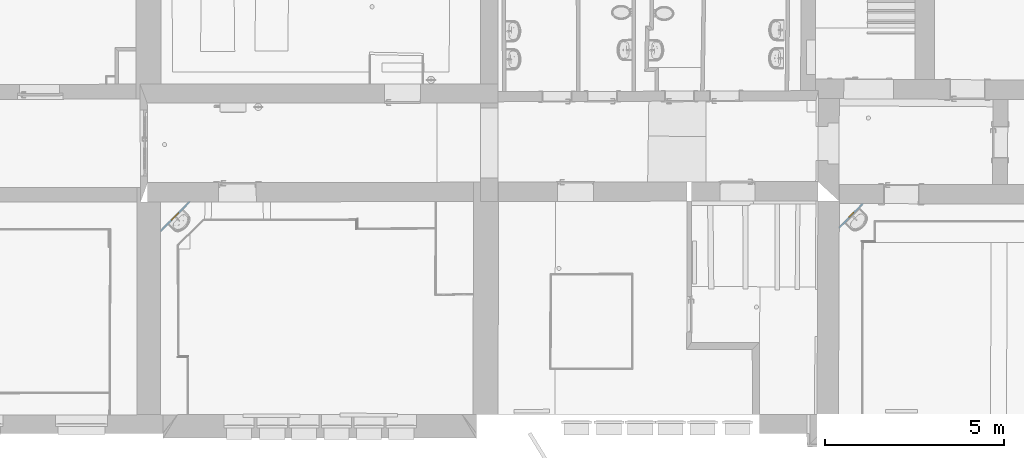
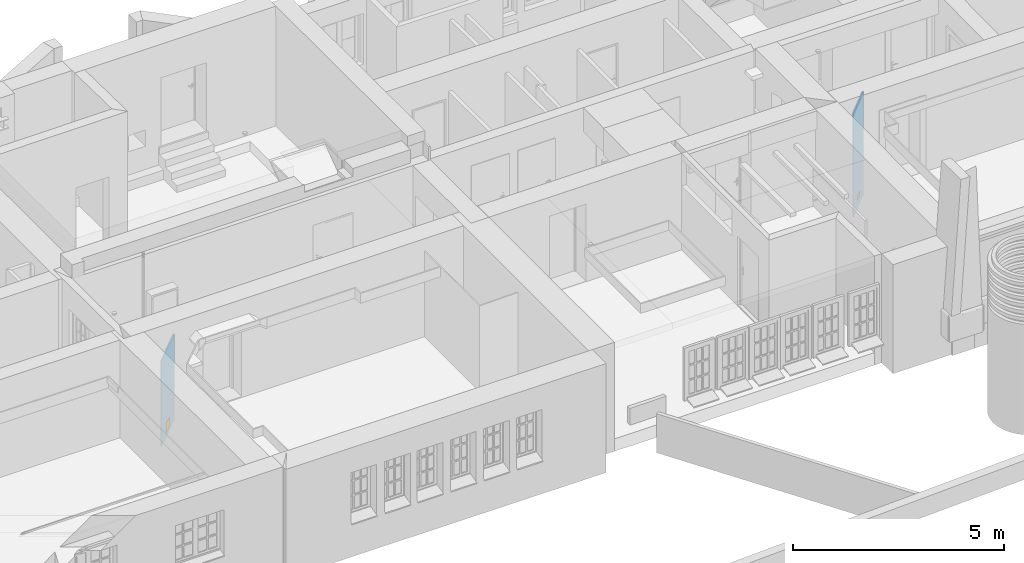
# One storey, part 115 of 196: 2 doors, 2 openings, plus 2 elements that do not belong to this part.
"""IFC2X3 building model written with IfcOpenShell, lengths in metres."""

import ifcopenshell
import ifcopenshell.guid

model = None  # the IFC model being written
_history = None  # IfcOwnerHistory: only IFC2X3 demands one
_inside = {}  # id of a spatial element -> (the spatial element, [elements in it])
_under = {}  # id of a project, library or spatial element -> (it, [spatial elements below it])
_declared = {}  # id of a project -> (the project, [libraries it declares])
_typed = {}  # id of a type object -> (the type object, [elements of that type])
_made_of = {}  # id of a material, layer set ... -> (it, [elements and type objects made of it])


def new_model(schema):
    """Start an empty IFC model of exactly this schema.

    Asked for "IFC4X3", IfcOpenShell would pick the latest addendum, in which some entities
    have other attributes; the version numbers below select the first issue.
    IFC2X3 requires an IfcOwnerHistory on every rooted entity: one is made here for all.
    """
    global model, _history
    if schema == "IFC4X3":
        model = ifcopenshell.file(schema_version=(4, 3, 0, 0))
    else:
        model = ifcopenshell.file(schema=schema)
    _inside.clear()
    _under.clear()
    _declared.clear()
    _typed.clear()
    _made_of.clear()
    _history = None
    if model.schema == "IFC2X3":
        org = make("IfcOrganization", Name="unknown")
        user = make(
            "IfcPersonAndOrganization",
            ThePerson=make("IfcPerson", FamilyName="unknown"),
            TheOrganization=org,
        )
        app = make(
            "IfcApplication",
            ApplicationDeveloper=org,
            Version="unknown",
            ApplicationFullName="unknown",
            ApplicationIdentifier="unknown",
        )
        _history = make(
            "IfcOwnerHistory",
            OwningUser=user,
            OwningApplication=app,
            ChangeAction="ADDED",
            CreationDate=0,
        )
    return model


def make(cls, **values):
    """One entity of the class cls with the attributes given. An attribute that is None is left unset."""
    return model.create_entity(
        cls, **{name: value for name, value in values.items() if value is not None}
    )


def entity(cls, *values):
    """Any entity or typed value of the class cls, its attributes in the order of the schema. None: left unset."""
    e = model.create_entity(cls)
    for i, value in enumerate(values):
        if value is not None:
            e[i] = value
    return e


def rooted(cls, **values):
    """An entity with a GlobalId (a new one), such as an element, a storey or a relation."""
    return make(cls, GlobalId=ifcopenshell.guid.new(), OwnerHistory=_history, **values)


def si_unit(unit_type, name, prefix=None):
    """IfcSIUnit, for example si_unit("LENGTHUNIT", "METRE", prefix="MILLI")."""
    return make("IfcSIUnit", UnitType=unit_type, Prefix=prefix, Name=name)


def converted_unit(unit_type, name, factor, base, dimensions=None, offset=None):
    """IfcConversionBasedUnit, such as the inch: factor (a typed value) times the base unit."""
    return make(
        "IfcConversionBasedUnit"
        if offset is None
        else "IfcConversionBasedUnitWithOffset",
        ConversionOffset=offset,
        Dimensions=None
        if dimensions is None
        else entity("IfcDimensionalExponents", *dimensions),
        UnitType=unit_type,
        Name=name,
        ConversionFactor=make(
            "IfcMeasureWithUnit", ValueComponent=factor, UnitComponent=base
        ),
    )


def derived_unit(unit_type, elements):
    """IfcDerivedUnit: a product of units, each with its exponent."""
    return make(
        "IfcDerivedUnit",
        Elements=[
            make("IfcDerivedUnitElement", Unit=unit, Exponent=power)
            for unit, power in elements
        ],
        UnitType=unit_type,
    )


def money_unit(currency):
    """IfcMonetaryUnit."""
    return make("IfcMonetaryUnit", Currency=currency)


def assignment(units):
    """IfcUnitAssignment: the units of a project."""
    return None if units is None else make("IfcUnitAssignment", Units=units)


def point(xyz):
    """IfcCartesianPoint."""
    return None if xyz is None else make("IfcCartesianPoint", Coordinates=xyz)


def direction(xyz):
    """IfcDirection."""
    return None if xyz is None else make("IfcDirection", DirectionRatios=xyz)


def frame(location, z_axis=None, x_axis=None):
    """IfcAxis2Placement3D, a coordinate frame: its origin and axes. An axis left out is left unset."""
    return make(
        "IfcAxis2Placement3D",
        Location=point(location),
        Axis=direction(z_axis),
        RefDirection=direction(x_axis),
    )


def frame_2d(location, x_axis=None):
    """IfcAxis2Placement2D, a coordinate frame in the plane: its origin and x axis."""
    return make(
        "IfcAxis2Placement2D", Location=point(location), RefDirection=direction(x_axis)
    )


def origin_with_axes():
    """The frame at (0, 0, 0) with the z axis (0, 0, 1) and the x axis (1, 0, 0) written out."""
    return frame((0.0, 0.0, 0.0), z_axis=(0.0, 0.0, 1.0), x_axis=(1.0, 0.0, 0.0))


def origin_2d_with_axis():
    """The frame at (0, 0) in the plane with the x axis (1, 0) written out."""
    return frame_2d((0.0, 0.0), x_axis=(1.0, 0.0))


def place(relative_to, where):
    """IfcLocalPlacement: puts the frame where relative to a parent placement (None: the world)."""
    return make(
        "IfcLocalPlacement", PlacementRelTo=relative_to, RelativePlacement=where
    )


def context(
    kind, dimensions, precision=None, world=None, true_north=None, identifier=None
):
    """IfcGeometricRepresentationContext, for example the 3D "Model" context."""
    return make(
        "IfcGeometricRepresentationContext",
        ContextIdentifier=identifier,
        ContextType=kind,
        CoordinateSpaceDimension=dimensions,
        Precision=precision,
        WorldCoordinateSystem=world,
        TrueNorth=true_north,
    )


def subcontext(parent, identifier, kind, view, scale=None):
    """IfcGeometricRepresentationSubContext, for example "Body" below "Model"."""
    return make(
        "IfcGeometricRepresentationSubContext",
        ContextIdentifier=identifier,
        ContextType=kind,
        ParentContext=parent,
        TargetScale=scale,
        TargetView=view,
    )


def project(units=None, contexts=None):
    """IfcProject with its units and contexts."""
    return rooted(
        "IfcProject",
        Name="project",
        RepresentationContexts=contexts,
        UnitsInContext=assignment(units),
    )


def spatial(cls, under=None, at=None, **own):
    """A site, building, storey or space (cls), placed at a placement, below another one or the project."""
    s = rooted(cls, ObjectPlacement=at, **own)
    if under is not None:
        _under.setdefault(under.id(), (under, []))[1].append(s)
    return s


def polyline(points):
    """IfcPolyline through the points."""
    return make("IfcPolyline", Points=[point(p) for p in points])


def profile(cls, at=None, kind="AREA", **sizes):
    """A parametric profile (cls). Its sizes go by their IFC names, for example OverallWidth=200.0."""
    return make(cls, ProfileType=kind, Position=at, **sizes)


def rectangle(**sizes):
    """IfcRectangleProfileDef."""
    return profile("IfcRectangleProfileDef", **sizes)


def outline(outer, holes=None, kind="AREA"):
    """IfcArbitraryClosedProfileDef: a profile drawn as a closed curve; with holes, ...WithVoids."""
    if holes is None:
        return make("IfcArbitraryClosedProfileDef", ProfileType=kind, OuterCurve=outer)
    return make(
        "IfcArbitraryProfileDefWithVoids",
        ProfileType=kind,
        OuterCurve=outer,
        InnerCurves=holes,
    )


def extrude(swept, where, along, depth):
    """IfcExtrudedAreaSolid: the profile swept, set in the frame where, extruded along a direction by depth."""
    return make(
        "IfcExtrudedAreaSolid",
        SweptArea=swept,
        Position=where,
        ExtrudedDirection=direction(along),
        Depth=depth,
    )


def faces_of(points, faces, orient=None, outer=None):
    """IfcFace entities. A face is a list of loops; a loop is a list of indices into points, from 0.

    orient and outer hold one flag for each loop. By default every Orientation is true, the
    first loop of a face is its IfcFaceOuterBound and the others are IfcFaceBound.
    """
    made = []
    for i, loops in enumerate(faces):
        bounds = []
        for j, loop in enumerate(loops):
            is_outer = j == 0 if outer is None else outer[i][j]
            bounds.append(
                make(
                    "IfcFaceOuterBound" if is_outer else "IfcFaceBound",
                    Bound=make("IfcPolyLoop", Polygon=[points[k] for k in loop]),
                    Orientation=True if orient is None else orient[i][j],
                )
            )
        made.append(make("IfcFace", Bounds=bounds))
    return made


def faceted_brep(points, faces, orient=None, outer=None, voids=None):
    """IfcFacetedBrep: a solid bounded by flat faces; with voids (closed shells), ...WithVoids."""
    shared = [point(p) for p in points]
    hull = make("IfcClosedShell", CfsFaces=faces_of(shared, faces, orient, outer))
    if voids is None:
        return make("IfcFacetedBrep", Outer=hull)
    return make(
        "IfcFacetedBrepWithVoids",
        Outer=hull,
        Voids=[
            make(cls, CfsFaces=faces_of(shared, fs, o, b)) for cls, fs, o, b in voids
        ],
    )


def shape(context_of_items, identifier, shape_type, items):
    """IfcShapeRepresentation: the items that make up one representation, for example the "Body"."""
    return make(
        "IfcShapeRepresentation",
        ContextOfItems=context_of_items,
        RepresentationIdentifier=identifier,
        RepresentationType=shape_type,
        Items=items,
    )


def material(Name=None, Category=None):
    """IfcMaterial."""
    return make("IfcMaterial", Name=Name, Category=Category)


def layer(
    of_material, thickness, ventilated=None, Name=None, Category=None, Priority=None
):
    """IfcMaterialLayer: one layer of a wall or slab, of a material (None: an air gap)."""
    return make(
        "IfcMaterialLayer",
        Material=of_material,
        LayerThickness=thickness,
        IsVentilated=ventilated,
        Name=Name,
        Category=Category,
        Priority=Priority,
    )


def layer_set(layers, Name=None):
    """IfcMaterialLayerSet."""
    return make("IfcMaterialLayerSet", MaterialLayers=layers, LayerSetName=Name)


def layer_usage(for_layer_set, set_direction, sense, offset, extent=None):
    """IfcMaterialLayerSetUsage: how a layer set lies in its element."""
    return make(
        "IfcMaterialLayerSetUsage",
        ForLayerSet=for_layer_set,
        LayerSetDirection=set_direction,
        DirectionSense=sense,
        OffsetFromReferenceLine=offset,
        ReferenceExtent=extent,
    )


def made_of(thing, what):
    """Note that an element or type object is made of a material, layer set ...; save() writes the relation."""
    if what is not None:
        _made_of.setdefault(what.id(), (what, []))[1].append(thing)
    return thing


def type_object(cls, material=None, **own):
    """A type object (cls), such as IfcWallType, which elements share."""
    return made_of(rooted(cls, **own), material)


def element(
    cls,
    number,
    at=None,
    inside=None,
    cuts=None,
    type_object=None,
    material=None,
    context=None,
    identifier="Body",
    shape_type=None,
    held_by="IfcProductDefinitionShape",
    body=None,
    shapes=None,
    **own,
):
    """One element of the class cls, such as IfcWall. Its Tag is "e" and its number.

    at: its placement. inside: the storey or other place that contains it. cuts: it is an
    opening in that element (IfcRelVoidsElement). A single representation is given by context,
    identifier, shape_type and body (its items); several are given by shapes. held_by: the class
    of the entity that holds the representations. save() writes the other relations.
    """
    e = rooted(cls, Tag="e%d" % number, ObjectPlacement=at, **own)
    if body is not None:
        shapes = [shape(context, identifier, shape_type, body)]
    if shapes is not None:
        e.Representation = make(held_by, Representations=shapes)
    if inside is not None:
        _inside.setdefault(inside.id(), (inside, []))[1].append(e)
    if cuts is not None:
        rooted(
            "IfcRelVoidsElement", RelatingBuildingElement=cuts, RelatedOpeningElement=e
        )
    if type_object is not None:
        _typed.setdefault(type_object.id(), (type_object, []))[1].append(e)
    return made_of(e, material)


def fill(opening, filler):
    """IfcRelFillsElement: the door or window that sits in an opening."""
    return rooted(
        "IfcRelFillsElement",
        RelatingOpeningElement=opening,
        RelatedBuildingElement=filler,
    )


def aggregate(whole, parts):
    """IfcRelAggregates: a whole, such as a stair, and the parts it consists of."""
    return rooted("IfcRelAggregates", RelatingObject=whole, RelatedObjects=parts)


def save(model, path):
    """Write the relations noted so far, then the file.

    IfcRelAggregates (storeys below a building ...), IfcRelContainedInSpatialStructure (elements
    in a storey), IfcRelDefinesByType, IfcRelAssociatesMaterial and IfcRelDeclares: one each for
    every whole, place, type object, material and project.
    """
    for whole, parts in _under.values():
        aggregate(whole, parts)
    for where, things in _inside.values():
        rooted(
            "IfcRelContainedInSpatialStructure",
            RelatedElements=things,
            RelatingStructure=where,
        )
    for kind, things in _typed.values():
        rooted("IfcRelDefinesByType", RelatedObjects=things, RelatingType=kind)
    for what, things in _made_of.values():
        rooted("IfcRelAssociatesMaterial", RelatedObjects=things, RelatingMaterial=what)
    for by, libraries in _declared.values():
        rooted("IfcRelDeclares", RelatingContext=by, RelatedDefinitions=libraries)
    model.write(path)


model = new_model("IFC2X3")

# Units and contexts
model_context = context("Model", 3, precision=1e-05, world=origin_with_axes(), true_north=direction((0.0, 1.0)))
body_context = subcontext(model_context, "Body", "Model", "MODEL_VIEW")
ifc_project = project(units=[si_unit("LENGTHUNIT", "METRE"), si_unit("AREAUNIT", "SQUARE_METRE"), si_unit("VOLUMEUNIT", "CUBIC_METRE"), converted_unit("PLANEANGLEUNIT", "DEGREE", entity("IfcPlaneAngleMeasure", 0.0174532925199), si_unit("PLANEANGLEUNIT", "RADIAN"), dimensions=[0, 0, 0, 0, 0, 0, 0]), money_unit("EUR"), converted_unit("TIMEUNIT", "Year", entity("IfcTimeMeasure", 31556926.0), si_unit("TIMEUNIT", "SECOND"), dimensions=[0, 0, 1, 0, 0, 0, 0]), si_unit("MASSUNIT", "GRAM", prefix="KILO"), si_unit("THERMODYNAMICTEMPERATUREUNIT", "DEGREE_CELSIUS"), si_unit("LUMINOUSINTENSITYUNIT", "LUMEN"), si_unit("ENERGYUNIT", "JOULE", prefix="MEGA"), derived_unit("THERMALCONDUCTANCEUNIT", [(si_unit("POWERUNIT", "WATT"), 1), (si_unit("LENGTHUNIT", "METRE"), -1), (si_unit("THERMODYNAMICTEMPERATUREUNIT", "KELVIN"), -1)]), derived_unit("SPECIFICHEATCAPACITYUNIT", [(si_unit("ENERGYUNIT", "JOULE"), 1), (si_unit("MASSUNIT", "GRAM", prefix="KILO"), -1), (si_unit("THERMODYNAMICTEMPERATUREUNIT", "KELVIN"), -1)]), derived_unit("MASSDENSITYUNIT", [(si_unit("MASSUNIT", "GRAM", prefix="KILO"), 1), (si_unit("VOLUMEUNIT", "CUBIC_METRE"), -1)])], contexts=[model_context])

# Site, building, storey
site_placement = place(None, origin_with_axes())
site = spatial("IfcSite", under=ifc_project, at=site_placement, Name="Gelände", CompositionType="ELEMENT")
building_placement = place(site_placement, origin_with_axes())
building = spatial("IfcBuilding", under=site, at=building_placement, Name="Gebäude", CompositionType="ELEMENT")
storey_placement = place(building_placement, frame((0.0, 0.0, -3.0), z_axis=(0.0, 0.0, 1.0), x_axis=(1.0, 0.0, 0.0)))
storey = spatial("IfcBuildingStorey", under=building, at=storey_placement, Name="KELLERGESCHOSS", CompositionType="ELEMENT", Elevation=-3.0)

# Wall, opening, door
ifc_material = material(Name="43_Gipskarton")
ifc_layer = layer(ifc_material, 0.03, ventilated="UNKNOWN")
ifc_layer_set = layer_set([ifc_layer], Name="43_Gipskarton 0.03")
ifc_layer_usage_1 = layer_usage(ifc_layer_set, "AXIS2", "NEGATIVE", 0.03)
wall_type = type_object("IfcWallType", Name="43_Gipskarton 30", PredefinedType="ELEMENTEDWALL")
wall_1_placement = place(storey_placement, frame((21.9579376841, 15.0450863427, -0.1), z_axis=(0.0, 0.0, 1.0), x_axis=(0.698403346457, 0.715704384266, 0.0)))
wall_1 = element("IfcWallStandardCase", 1, at=wall_1_placement, inside=storey, type_object=wall_type, material=ifc_layer_usage_1, Name="Wand-032", ObjectType="ELEMENTEDWALL", context=body_context, shape_type="SweptSolid", body=[
    extrude(outline(polyline([(0.862844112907, 0.0), (1.82884582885, 0.0), (1.79963821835, 0.03), (0.893848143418, 0.03), (0.862844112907, 0.0)])), origin_with_axes(), (0.0, 0.0, 1.0), 3.0),
])
opening_1_placement = place(wall_1_placement, frame((1.36993878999, 0.0, 0.200269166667), z_axis=(0.0, 0.0, 1.0), x_axis=(1.0, 0.0, 0.0)))
opening_1 = element("IfcOpeningElement", 2, at=opening_1_placement, cuts=wall_1, Name="Tür-022", context=body_context, shape_type="SweptSolid", body=[
    extrude(rectangle(XDim=0.202513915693, YDim=0.194955, at=origin_2d_with_axis()), frame((0.0, -0.03, 0.0974775), z_axis=(0.0, 1.0, 0.0), x_axis=(-1.0, 0.0, 0.0)), (0.0, 0.0, 1.0), 0.09),
])
door_style = type_object("IfcDoorStyle", Name="Blockrahmentür 1-Fl 25", ConstructionType="NOTDEFINED", OperationType="SINGLE_SWING_RIGHT", ParameterTakesPrecedence=False, Sizeable=False)
door_1_placement = place(opening_1_placement, frame((0.0982569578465, 0.0, 0.0), z_axis=(0.0, 0.0, 1.0), x_axis=(-1.0, 0.0, 0.0)))
door_1 = element("IfcDoor", 3, at=door_1_placement, inside=storey, type_object=door_style, Name="Tür-022", ObjectType="NOTDEFINED", OverallHeight=0.194955, OverallWidth=0.202514, context=body_context, shape_type="Brep", body=[
    faceted_brep([(0.199513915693, -0.04, 0.0), (0.199513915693, -0.01, 0.0), (0.199513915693, -0.01, 0.194955), (0.199513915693, -0.04, 0.194955), (0.196513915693, -0.04, 0.0), (0.196513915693, -0.01, 0.0), (0.196513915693, -0.01, 0.191955), (0.198356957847, -0.01, 0.191955), (0.0983569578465, -0.01, 0.191955), (0.0, -0.01, 0.191955), (0.0, -0.01, 0.0), (-0.003, -0.01, 0.0), (-0.003, -0.01, 0.194955), (-0.003, -0.04, 0.194955), (-0.003, -0.04, 0.0), (0.0, -0.04, 0.0), (0.0, -0.04, 0.191955), (0.0983569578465, -0.04, 0.191955), (0.198356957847, -0.04, 0.191955), (0.196513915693, -0.04, 0.191955)], [[[0, 1, 2, 3]], [[4, 5, 1, 0]], [[1, 5, 6, 7, 8, 9, 10, 11, 12, 2]], [[3, 2, 12, 13]], [[0, 3, 13, 14, 15, 16, 17, 18, 19, 4]], [[19, 6, 5, 4]], [[18, 7, 6, 19]], [[17, 8, 7, 18]], [[16, 9, 8, 17]], [[15, 10, 9, 16]], [[14, 11, 10, 15]], [[13, 12, 11, 14]]]),
    faceted_brep([(0.196513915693, -0.01, 0.0), (0.0, -0.01, 0.0), (0.0, -0.01, 0.191955), (0.196513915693, -0.01, 0.191955), (0.196513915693, -0.04, 0.0), (0.0, -0.04, 0.0), (0.0, -0.04, 0.191955), (0.196513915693, -0.04, 0.191955)], [[[0, 1, 2, 3]], [[1, 0, 4, 5]], [[2, 1, 5, 6]], [[3, 2, 6, 7]], [[0, 3, 7, 4]], [[5, 4, 7, 6]]]),
])
fill(opening_1, door_1)

ifc_layer_usage_2 = layer_usage(ifc_layer_set, "AXIS2", "NEGATIVE", 0.03)
wall_2_placement = place(storey_placement, frame((3.61046248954, 15.574769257, -0.04), z_axis=(0.0, 0.0, 1.0), x_axis=(0.709526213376, 0.704679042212, 0.0)))
wall_2 = element("IfcWallStandardCase", 4, at=wall_2_placement, inside=storey, type_object=wall_type, material=ifc_layer_usage_2, Name="Wand-034", ObjectType="ELEMENTEDWALL", context=body_context, shape_type="SweptSolid", body=[
    extrude(outline(polyline([(0.0, 0.0), (1.17334228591, 0.0), (1.14303808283, 0.03), (0.029743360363, 0.03), (0.0, 0.0)])), origin_with_axes(), (0.0, 0.0, 1.0), 2.48),
])
opening_2_placement = place(wall_2_placement, frame((0.579997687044, 0.0, 0.112300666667), z_axis=(0.0, 0.0, 1.0), x_axis=(1.0, 0.0, 0.0)))
opening_2 = element("IfcOpeningElement", 5, at=opening_2_placement, cuts=wall_2, Name="Tür-022", context=body_context, shape_type="SweptSolid", body=[
    extrude(rectangle(XDim=0.306104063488, YDim=0.293476, at=origin_2d_with_axis()), frame((0.0, 0.03, 0.146738), z_axis=(0.0, -1.0, 0.0), x_axis=(-1.0, 0.0, 0.0)), (0.0, 0.0, 1.0), 0.09),
])
door_2_placement = place(opening_2_placement, frame((0.150052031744, 0.0, 0.0), z_axis=(0.0, 0.0, 1.0), x_axis=(-1.0, 0.0, 0.0)))
door_2 = element("IfcDoor", 6, at=door_2_placement, inside=storey, type_object=door_style, Name="Tür-022", ObjectType="NOTDEFINED", OverallHeight=0.293476, OverallWidth=0.306104, context=body_context, shape_type="Brep", body=[
    faceted_brep([(0.303104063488, -0.03, 0.0), (0.303104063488, 0.0, 0.0), (0.303104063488, 0.0, 0.293476), (0.303104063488, -0.03, 0.293476), (0.300104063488, -0.03, 0.0), (0.300104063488, 0.0, 0.0), (0.300104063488, 0.0, 0.290476), (0.250152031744, 0.0, 0.290476), (0.150152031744, 0.0, 0.290476), (0.0, 0.0, 0.290476), (0.0, 0.0, 0.0), (-0.003, 0.0, 0.0), (-0.003, 0.0, 0.293476), (-0.003, -0.03, 0.293476), (-0.003, -0.03, 0.0), (0.0, -0.03, 0.0), (0.0, -0.03, 0.290476), (0.150152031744, -0.03, 0.290476), (0.250152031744, -0.03, 0.290476), (0.300104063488, -0.03, 0.290476)], [[[0, 1, 2, 3]], [[4, 5, 1, 0]], [[1, 5, 6, 7, 8, 9, 10, 11, 12, 2]], [[3, 2, 12, 13]], [[0, 3, 13, 14, 15, 16, 17, 18, 19, 4]], [[19, 6, 5, 4]], [[18, 7, 6, 19]], [[17, 8, 7, 18]], [[16, 9, 8, 17]], [[15, 10, 9, 16]], [[14, 11, 10, 15]], [[13, 12, 11, 14]]]),
    faceted_brep([(0.300104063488, 0.0, 0.0), (0.0, 0.0, 0.0), (0.0, 0.0, 0.290476), (0.300104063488, 0.0, 0.290476), (0.300104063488, -0.03, 0.0), (0.0, -0.03, 0.0), (0.0, -0.03, 0.290476), (0.300104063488, -0.03, 0.290476)], [[[0, 1, 2, 3]], [[1, 0, 4, 5]], [[2, 1, 5, 6]], [[3, 2, 6, 7]], [[0, 3, 7, 4]], [[5, 4, 7, 6]]]),
])
fill(opening_2, door_2)

save(model, "model.ifc")
